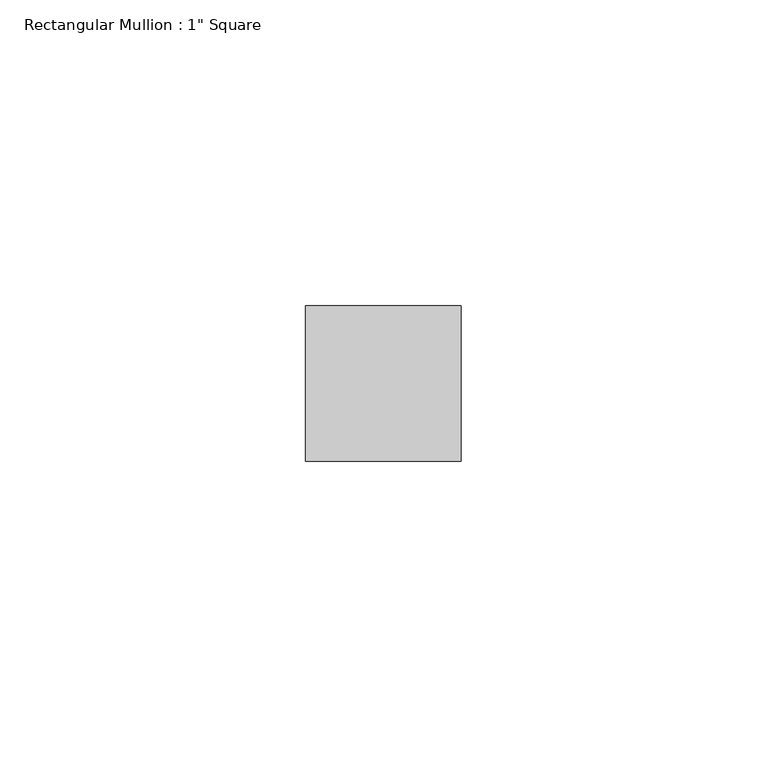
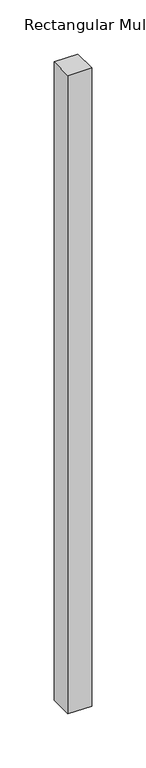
"""IFC4 building model written with IfcOpenShell, lengths in millimetres: member geometry."""

from ifc_helpers import new_model, si_unit, frame, origin, place, context, project, spatial, polyline, outline, extrude, source, transform, mapped, element, save


def member_7fa23940(model_context):
    return source(origin(), model_context, "Body", "SweptSolid", [
        extrude(outline(polyline([(12.7, 44.45), (12.7, 19.05), (-12.7, 19.05), (-12.7, 44.45), (12.7, 44.45)])), frame((0.0, 0.0, -721.1218748), z_axis=(0.0, 0.0, 1.0), x_axis=(1.0, 0.0, 0.0)), (0.0, 0.0, 1.0), 721.1218748),
    ])


if __name__ == "__main__":
    model = new_model("IFC4")
    model_context = context("Model", 3, world=origin())
    ifc_project = project(units=[si_unit("LENGTHUNIT", "METRE", prefix="MILLI")], contexts=[model_context])
    site = spatial("IfcSite", under=ifc_project)
    building = spatial("IfcBuilding", under=site)
    placement = place(None, origin())
    member_shape = member_7fa23940(model_context)
    element("IfcMember", 1, ObjectType="Rectangular Mullion : 1\" Square", at=placement, inside=building, context=model_context, shape_type="MappedRepresentation", body=[
        mapped(member_shape, transform((0.0, 0.0, 0.0), x_axis=(1.0, 0.0, 0.0), y_axis=(0.0, 1.0, 0.0), z_axis=(0.0, 0.0, 1.0))),
    ])
    save(model, "model.ifc")
